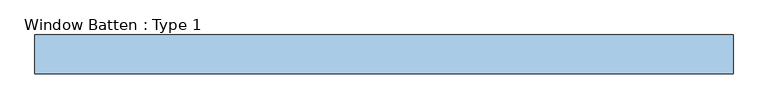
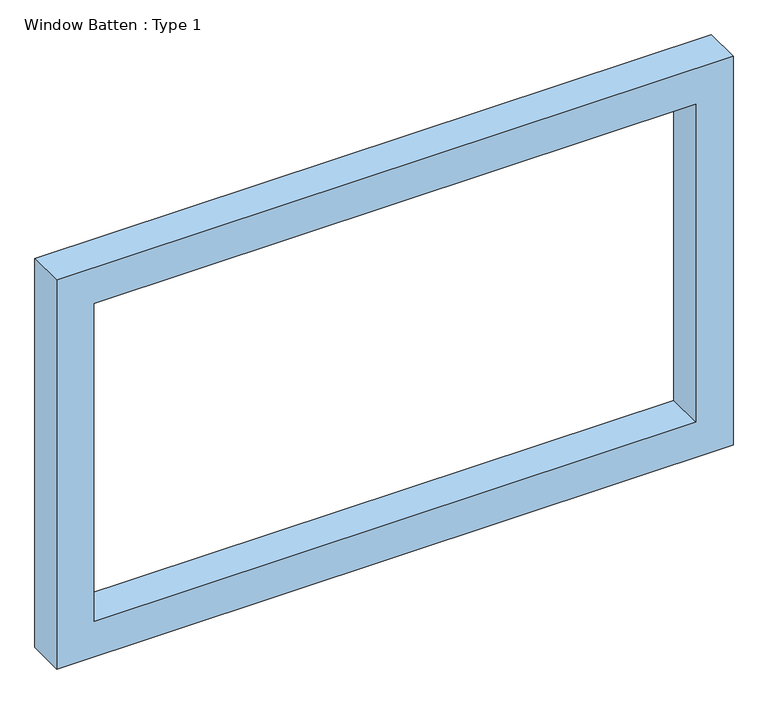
"""IFC4 building model written with IfcOpenShell, lengths in millimetres: window geometry, Window Batten : Type 1."""

from ifc_helpers import new_model, si_unit, frame, origin, place, context, project, spatial, polyline, outline, extrude, source, transform, mapped, element, save


def window_batten_type_1_102509b6(model_context):
    return source(origin(), model_context, "Body", "SweptSolid", [
        extrude(outline(polyline([(2708.8484214, -1675.460445), (519.536125, -1675.460445), (519.536125, 1925.460445), (2708.8484214, 1925.460445), (2708.8484214, -1675.460445)]), holes=[polyline([(2508.8484214, -1475.460445), (2508.8484214, 1725.460445), (719.536125, 1725.460445), (719.536125, -1475.460445), (2508.8484214, -1475.460445)])]), frame((0.0, -310.0, 0.0), z_axis=(0.0, 1.0, 0.0), x_axis=(0.0, 0.0, 1.0)), (0.0, 0.0, 1.0), 200.0),
    ])


if __name__ == "__main__":
    model = new_model("IFC4")
    model_context = context("Model", 3, world=origin())
    ifc_project = project(units=[si_unit("LENGTHUNIT", "METRE", prefix="MILLI")], contexts=[model_context])
    site = spatial("IfcSite", under=ifc_project)
    building = spatial("IfcBuilding", under=site)
    placement = place(None, origin())
    window_batten_type_1_shape = window_batten_type_1_102509b6(model_context)
    element("IfcWindow", 1, ObjectType="Window Batten : Type 1", at=placement, inside=building, context=model_context, shape_type="MappedRepresentation", body=[
        mapped(window_batten_type_1_shape, transform((0.0, 0.0, 0.0), x_axis=(1.0, 0.0, 0.0), y_axis=(0.0, 1.0, 0.0), z_axis=(0.0, 0.0, 1.0))),
    ])
    save(model, "model.ifc")
